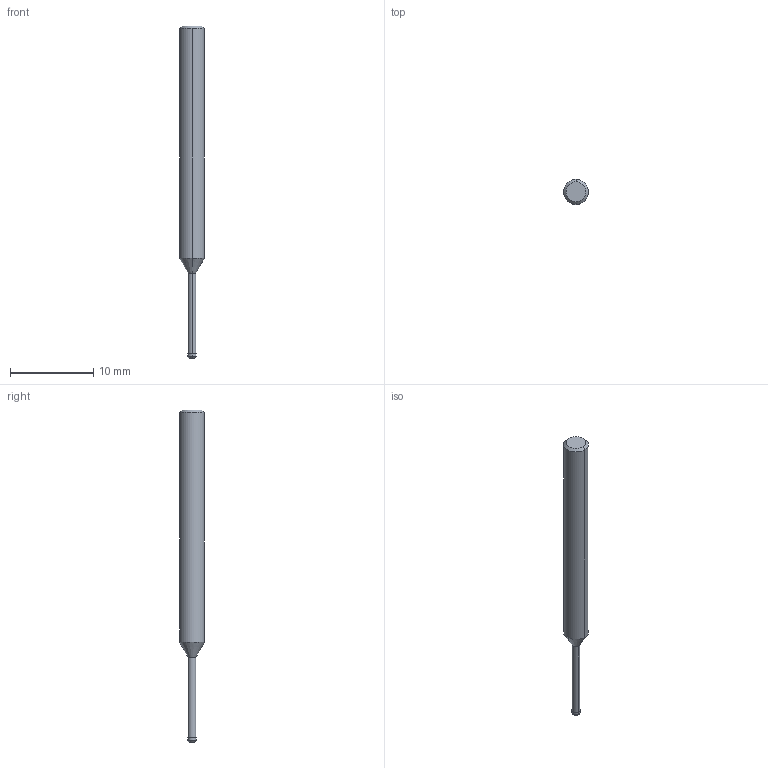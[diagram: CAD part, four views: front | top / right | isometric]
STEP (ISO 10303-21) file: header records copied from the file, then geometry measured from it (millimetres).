
FILE_DESCRIPTION(('no description'),'unknown implementation level');
FILE_NAME('solidbcZGJkfk0b8Te_nlyF5vuIC_GNI_1.STP',' ',('CIMSOURCE GmbH'),('CADClick - KiM GmbH - www.kimweb.de'),'unknown preprocess','ACIS','unknown authorization');
FILE_SCHEMA(('automotive_design'));
Length unit declared in the file: millimetre
Products named in the file (2): NOCUT; CUT
Bounding box: 3 x 3 x 40 mm (x, y, z)
Volume: 210.7 mm3; surface area: 315.2 mm2
Topology: 2 solids, 2 shells, 34 faces, 81 edges, 50 vertices
Faces by surface type: cylinder 12, cone 10, plane 10, torus 2
Entity records: 2118 total; most frequent: CARTESIAN_POINT 383, DIRECTION 173, STYLED_ITEM 163, PRESENTATION_STYLE_ASSIGNMENT 163, COLOUR_RGB 163, ORIENTED_EDGE 154, EDGE_CURVE 77, CURVE_STYLE 77
